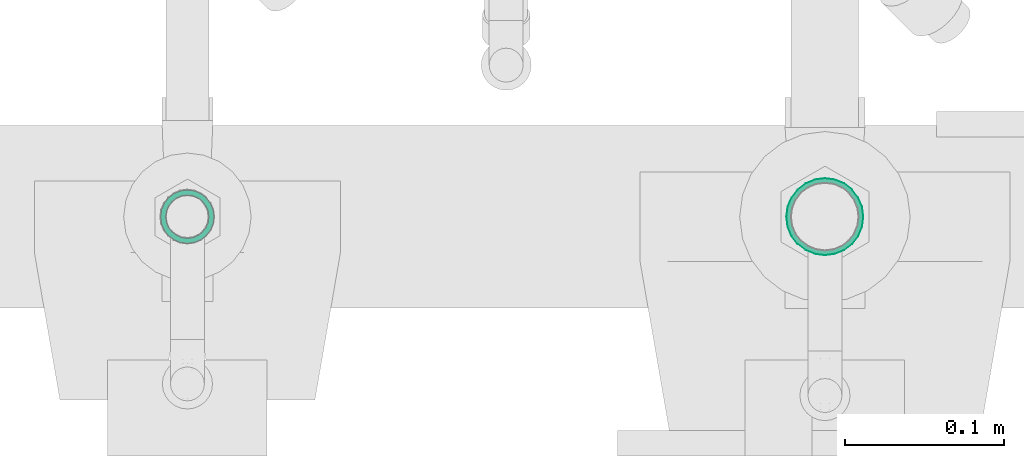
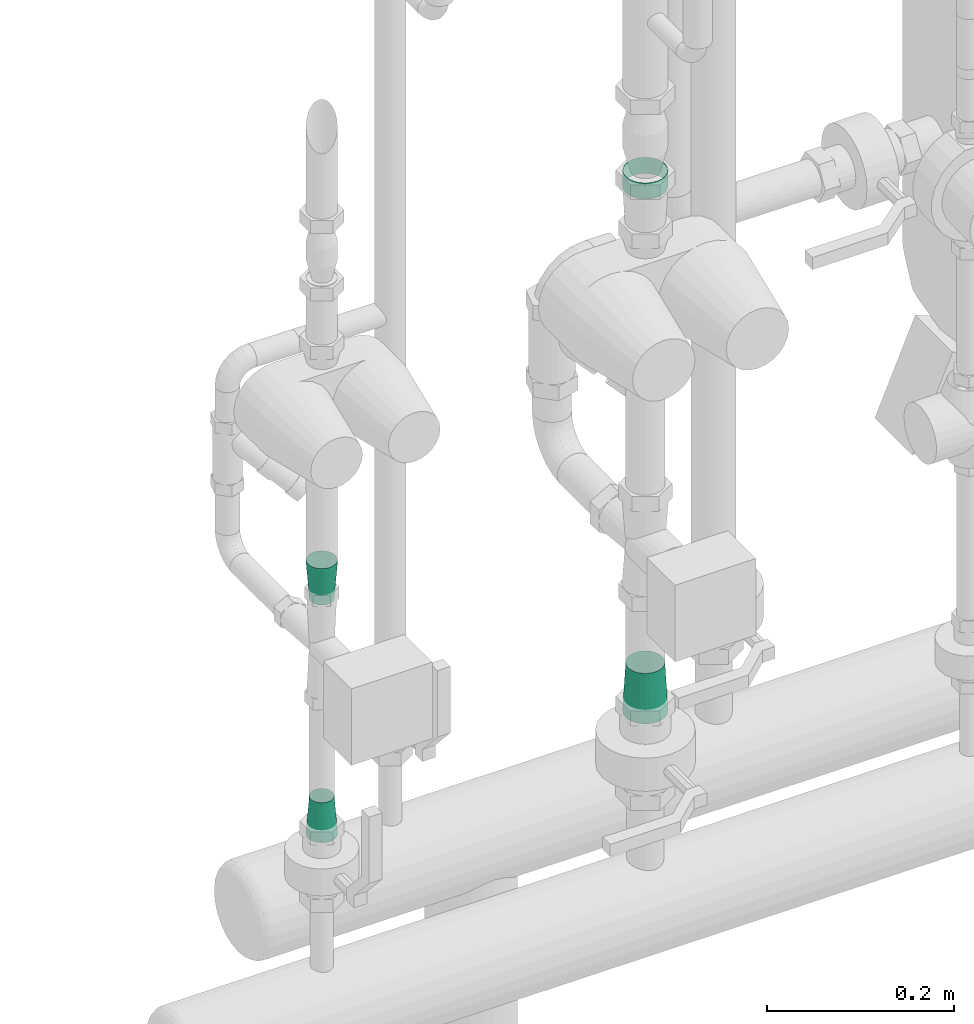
# One storey, part 340 of 374: 3 flow fittings, 1 flow segment.
"""IFC2X3 building model written with IfcOpenShell, lengths in metres."""

from ifc_helpers import new_model, si_unit, direction, origin, place, context, subcontext, project, spatial, open_shell, surface_model, source, transform, mapped, element, save


model = new_model("IFC2X3")

# Units and contexts
model_context = context("Model", 3, precision=1e-05, world=origin(), true_north=direction((-0.4480736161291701, 0.8939966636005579)))
body_context = subcontext(model_context, "Body", "Model", "MODEL_VIEW")
ifc_project = project(units=[si_unit("LENGTHUNIT", "METRE"), si_unit("AREAUNIT", "SQUARE_METRE"), si_unit("VOLUMEUNIT", "CUBIC_METRE"), si_unit("PLANEANGLEUNIT", "RADIAN"), si_unit("THERMODYNAMICTEMPERATUREUNIT", "KELVIN"), si_unit("MASSUNIT", "GRAM", prefix="KILO"), si_unit("TIMEUNIT", "SECOND")], contexts=[model_context])

# Site, building, storey
site_placement = place(None, origin())
site = spatial("IfcSite", under=ifc_project, at=site_placement, Name="Site 1", CompositionType="ELEMENT")
building_placement = place(site_placement, origin())
building = spatial("IfcBuilding", under=site, at=building_placement, Name="Undefined", CompositionType="ELEMENT")
storey_placement = place(building_placement, origin())
storey = spatial("IfcBuildingStorey", under=building, at=storey_placement, Name="Rez de chauss\x8ee", CompositionType="ELEMENT", Elevation=0.0)

# Flow fitting
shared_shape_1 = source(origin(), body_context, "Body", "SurfaceModel", [
    surface_model("IfcFaceBasedSurfaceModel", [(0.0, 0.0, 0.0), (0.006304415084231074, 0.0, -7.105427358e-15), (0.006304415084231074, 0.00491426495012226, -7.105427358e-15), (0.0, 0.00491426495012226, -7.105427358e-15), (0.01239401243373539, 0.0, -0.0016317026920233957), (0.01239401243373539, 0.00491426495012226, -0.0016317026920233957), (0.017853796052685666, 0.0, -0.004783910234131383), (0.017853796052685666, 0.00491426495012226, -0.004783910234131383), (0.0223116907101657, 0.0, -0.00924180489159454), (0.0223116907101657, 0.00491426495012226, -0.00924180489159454), (0.025463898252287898, 0.0, -0.014701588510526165), (0.025463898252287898, 0.00491426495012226, -0.014701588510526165), (0.02709560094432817, 0.0, -0.02079118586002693), (0.02709560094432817, 0.00491426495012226, -0.02079118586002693), (0.02709560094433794, 0.0, -0.027095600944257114), (0.02709560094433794, 0.00491426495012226, -0.027095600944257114), (0.025463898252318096, 0.0, -0.03318519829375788), (0.025463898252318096, 0.00491426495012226, -0.03318519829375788), (0.022311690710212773, 0.0, -0.03864498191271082), (0.022311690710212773, 0.00491426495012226, -0.03864498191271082), (0.01785379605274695, 0.0, -0.04310287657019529), (0.01785379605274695, 0.00491426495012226, -0.04310287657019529), (0.012394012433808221, 0.0, -0.046255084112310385), (0.012394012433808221, 0.00491426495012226, -0.046255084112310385), (0.0063044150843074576, 0.0, -0.0478867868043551), (0.0063044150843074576, 0.00491426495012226, -0.0478867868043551), (0.0, -2.4868995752e-14, -0.04788678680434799), (7.9047879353e-14, 0.00491426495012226, -0.0478867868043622), (-0.006089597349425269, 0.0, -0.04625508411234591), (-0.006089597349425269, 0.00491426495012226, -0.04625508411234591), (-0.011549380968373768, 0.0, -0.043102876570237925), (-0.011549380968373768, 0.00491426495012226, -0.043102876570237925), (-0.016007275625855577, 0.0, -0.03864498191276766), (-0.016007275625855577, 0.00491426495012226, -0.03864498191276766), (-0.019159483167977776, 0.0, -0.03318519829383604), (-0.019159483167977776, 0.00491426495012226, -0.03318519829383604), (-0.02079118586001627, 0.0, -0.027095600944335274), (-0.02079118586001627, 0.00491426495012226, -0.027095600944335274), (-0.020791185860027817, 0.0, -0.020791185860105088), (-0.020791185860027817, 0.00491426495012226, -0.020791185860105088), (-0.019159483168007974, 0.0, -0.014701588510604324), (-0.019159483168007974, 0.00491426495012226, -0.014701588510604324), (-0.016007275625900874, 0.0, -0.00924180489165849), (-0.016007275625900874, 0.00491426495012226, -0.00924180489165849), (-0.011549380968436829, 0.0, -0.004783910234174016), (-0.011549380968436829, 0.00491426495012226, -0.004783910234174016), (-0.006089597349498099, 0.0, -0.0016317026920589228), (-0.006089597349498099, 0.00491426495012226, -0.0016317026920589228), (-0.017866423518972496, 0.05939565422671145, -0.021176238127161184), (-0.017866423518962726, 0.05939565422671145, -0.026710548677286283), (-0.016434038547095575, 0.05939565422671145, -0.015830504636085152), (-0.013666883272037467, 0.05939565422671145, -0.011037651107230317), (-0.009753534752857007, 0.05939565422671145, -0.007124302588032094), (-0.004960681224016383, 0.05939565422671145, -0.004357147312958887), (0.0003850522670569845, 0.05939565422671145, -0.0029247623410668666), (0.005919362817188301, 0.05939565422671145, -0.002924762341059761), (0.01126509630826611, 0.05939565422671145, -0.004357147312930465), (0.01605794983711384, 0.05939565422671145, -0.007124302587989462), (0.019971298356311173, 0.05939565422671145, -0.01103765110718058), (0.022738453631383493, 0.05939565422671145, -0.015830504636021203), (0.024170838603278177, 0.05939565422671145, -0.02117623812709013), (0.02417083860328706, 0.05939565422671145, -0.026710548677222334), (0.022738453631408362, 0.05939565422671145, -0.032056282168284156), (0.01997129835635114, 0.05939565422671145, -0.03684913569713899), (0.01605794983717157, 0.05939565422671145, -0.040762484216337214), (0.01126509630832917, 0.05939565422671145, -0.04352963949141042), (0.005919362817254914, 0.05939565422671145, -0.04496202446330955), (0.00038505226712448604, 0.05939565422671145, -0.04496202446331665), (-0.004960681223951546, 0.05939565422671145, -0.04352963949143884), (-0.009753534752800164, 0.05939565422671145, -0.040762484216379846), (-0.013666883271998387, 0.05939565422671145, -0.03684913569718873), (-0.01643403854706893, 0.05939565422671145, -0.032056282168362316), (0.005919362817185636, 0.06400000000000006, -0.0029247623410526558), (0.0003850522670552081, 0.06400000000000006, -0.0029247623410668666), (0.011265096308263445, 0.06400000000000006, -0.0043571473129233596), (0.016057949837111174, 0.06400000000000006, -0.007124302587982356), (0.01997129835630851, 0.06400000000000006, -0.011037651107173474), (0.022738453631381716, 0.06400000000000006, -0.015830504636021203), (0.02417083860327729, 0.06400000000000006, -0.021176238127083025), (0.024170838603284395, 0.06400000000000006, -0.02671054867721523), (0.022738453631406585, 0.06400000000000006, -0.032056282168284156), (0.019971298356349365, 0.06400000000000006, -0.03684913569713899), (0.016057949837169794, 0.06400000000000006, -0.040762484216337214), (0.011265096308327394, 0.06400000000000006, -0.04352963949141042), (0.0059193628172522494, 0.06400000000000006, -0.04496202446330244), (0.00038505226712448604, 0.06400000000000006, -0.04496202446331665), (-0.004960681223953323, 0.06400000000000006, -0.04352963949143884), (-0.00975353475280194, 0.06400000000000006, -0.040762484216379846), (-0.013666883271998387, 0.06400000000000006, -0.03684913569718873), (-0.016434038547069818, 0.06400000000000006, -0.03205628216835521), (-0.01786642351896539, 0.06400000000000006, -0.026710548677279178), (-0.017866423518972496, 0.06400000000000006, -0.021176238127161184), (-0.016434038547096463, 0.06400000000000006, -0.015830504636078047), (-0.013666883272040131, 0.06400000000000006, -0.011037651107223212), (-0.009753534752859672, 0.06400000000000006, -0.007124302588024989), (-0.0049606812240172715, 0.06400000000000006, -0.004357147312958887)], [open_shell([[[0, 1, 2, 3]], [[1, 4, 5, 2]], [[4, 6, 7, 5]], [[6, 8, 9, 7]], [[8, 10, 11, 9]], [[10, 12, 13, 11]], [[12, 14, 15, 13]], [[14, 16, 17, 15]], [[16, 18, 19, 17]], [[18, 20, 21, 19]], [[20, 22, 23, 21]], [[22, 24, 25, 23]], [[24, 26, 27, 25]], [[26, 28, 29, 27]], [[28, 30, 31, 29]], [[30, 32, 33, 31]], [[32, 34, 35, 33]], [[34, 36, 37, 35]], [[36, 38, 39, 37]], [[38, 40, 41, 39]], [[40, 42, 43, 41]], [[42, 44, 45, 43]], [[44, 46, 47, 45]], [[46, 0, 3, 47]], [[37, 39, 48, 49]], [[39, 41, 50, 48]], [[41, 43, 51, 50]], [[43, 45, 52, 51]], [[45, 47, 53, 52]], [[47, 3, 54, 53]], [[3, 2, 55, 54]], [[2, 5, 56, 55]], [[5, 7, 57, 56]], [[7, 9, 58, 57]], [[9, 11, 59, 58]], [[11, 13, 60, 59]], [[13, 15, 61, 60]], [[15, 17, 62, 61]], [[17, 19, 63, 62]], [[19, 21, 64, 63]], [[21, 23, 65, 64]], [[23, 25, 66, 65]], [[25, 27, 67, 66]], [[27, 29, 68, 67]], [[29, 31, 69, 68]], [[31, 33, 70, 69]], [[33, 35, 71, 70]], [[35, 37, 49, 71]], [[54, 55, 72, 73]], [[55, 56, 74, 72]], [[56, 57, 75, 74]], [[57, 58, 76, 75]], [[58, 59, 77, 76]], [[59, 60, 78, 77]], [[60, 61, 79, 78]], [[61, 62, 80, 79]], [[62, 63, 81, 80]], [[63, 64, 82, 81]], [[64, 65, 83, 82]], [[65, 66, 84, 83]], [[66, 67, 85, 84]], [[67, 68, 86, 85]], [[68, 69, 87, 86]], [[69, 70, 88, 87]], [[70, 71, 89, 88]], [[71, 49, 90, 89]], [[49, 48, 91, 90]], [[48, 50, 92, 91]], [[50, 51, 93, 92]], [[51, 52, 94, 93]], [[52, 53, 95, 94]], [[53, 54, 73, 95]]])]),
])
flow_fitting_1_placement = place(storey_placement, origin())
element("IfcFlowFitting", 1, at=flow_fitting_1_placement, inside=storey, Name="Réduction", ObjectType="Réduction", context=body_context, shape_type="MappedRepresentation", body=[
    mapped(shared_shape_1, transform((52.4334120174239, 10.718037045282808, 0.54895), x_axis=(0.13052619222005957, -0.9914448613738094, 0.0), y_axis=(0.0, 0.0, 1.0), z_axis=(-0.9914448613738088, -0.13052619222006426, 0.0))),
])

# Flow segment
shared_shape_2 = source(origin(), body_context, "Body", "SurfaceModel", [
    surface_model("IfcFaceBasedSurfaceModel", [(0.0, 0.006304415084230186, 7.105427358e-15), (0.0, 0.0, 0.0), (0.021247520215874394, 8.8817842e-16, 7.105427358e-15), (0.021247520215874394, 0.006304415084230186, 7.105427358e-15), (0.0, -0.006089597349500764, -0.0016317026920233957), (0.021247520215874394, -0.006089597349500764, -0.0016317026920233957), (0.0, -0.011549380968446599, -0.004783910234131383), (0.021247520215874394, -0.011549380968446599, -0.004783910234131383), (0.0, -0.016007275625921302, -0.009241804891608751), (0.021247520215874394, -0.016007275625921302, -0.009241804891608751), (0.0, -0.01915948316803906, -0.014701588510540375), (0.021247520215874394, -0.01915948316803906, -0.014701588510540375), (0.0, -0.020791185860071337, -0.020791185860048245), (0.021247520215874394, -0.020791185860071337, -0.020791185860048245), (0.0, -0.020791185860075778, -0.027095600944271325), (0.021247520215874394, -0.020791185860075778, -0.027095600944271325), (0.0, -0.01915948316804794, -0.03318519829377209), (0.021247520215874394, -0.01915948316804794, -0.03318519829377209), (0.0, -0.01600727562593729, -0.038644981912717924), (0.021247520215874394, -0.01600727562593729, -0.038644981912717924), (0.0, -0.011549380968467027, -0.0431028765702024), (0.021247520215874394, -0.011549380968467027, -0.0431028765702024), (0.0, -0.006089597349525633, -0.04625508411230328), (0.021247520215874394, -0.006089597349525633, -0.04625508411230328), (0.0, -2.4868995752e-14, -0.04788678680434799), (0.021247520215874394, -2.4868995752e-14, -0.04788678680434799), (0.0, 0.006304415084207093, -0.047886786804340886), (0.021247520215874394, 0.006304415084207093, -0.047886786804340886), (0.0, 0.012394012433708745, -0.046255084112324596), (0.021247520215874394, 0.012394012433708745, -0.046255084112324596), (0.0, 0.01785379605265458, -0.0431028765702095), (0.021247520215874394, 0.01785379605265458, -0.0431028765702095), (0.0, 0.022311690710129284, -0.03864498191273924), (0.021247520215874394, 0.022311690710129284, -0.03864498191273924), (0.0, 0.02546389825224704, -0.03318519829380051), (0.021247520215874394, 0.02546389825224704, -0.03318519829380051), (0.0, 0.02709560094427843, -0.027095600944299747), (0.021247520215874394, 0.02709560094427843, -0.027095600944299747), (0.0, 0.02709560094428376, -0.02079118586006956), (0.021247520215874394, 0.02709560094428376, -0.02079118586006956), (0.0, 0.025463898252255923, -0.014701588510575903), (0.021247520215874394, 0.025463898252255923, -0.014701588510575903), (0.0, 0.02231169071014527, -0.009241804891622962), (0.021247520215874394, 0.02231169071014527, -0.009241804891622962), (0.0, 0.01785379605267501, -0.004783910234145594), (0.021247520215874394, 0.01785379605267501, -0.004783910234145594), (0.0, 0.012394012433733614, -0.0016317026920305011), (0.021247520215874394, 0.012394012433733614, -0.0016317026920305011)], [open_shell([[[0, 1, 2, 3]], [[1, 4, 5, 2]], [[4, 6, 7, 5]], [[6, 8, 9, 7]], [[8, 10, 11, 9]], [[10, 12, 13, 11]], [[12, 14, 15, 13]], [[14, 16, 17, 15]], [[16, 18, 19, 17]], [[18, 20, 21, 19]], [[20, 22, 23, 21]], [[22, 24, 25, 23]], [[24, 26, 27, 25]], [[26, 28, 29, 27]], [[28, 30, 31, 29]], [[30, 32, 33, 31]], [[32, 34, 35, 33]], [[34, 36, 37, 35]], [[36, 38, 39, 37]], [[38, 40, 41, 39]], [[40, 42, 43, 41]], [[42, 44, 45, 43]], [[44, 46, 47, 45]], [[46, 0, 3, 47]]])]),
])
flow_segment_placement = place(storey_placement, origin())
element("IfcFlowSegment", 2, at=flow_segment_placement, inside=storey, Name="Tube acier d'après DIN 2448", ObjectType="Tube acier d'après DIN 2448", context=body_context, shape_type="MappedRepresentation", body=[
    mapped(shared_shape_2, transform((52.48088912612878, 10.724287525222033, 1.2349), x_axis=(0.0, 0.0, 1.0), y_axis=(0.13052619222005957, -0.9914448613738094, 0.0), z_axis=(0.9914448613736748, 0.13052619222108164, 0.0))),
])

# Flow fittings
shared_shape_3 = source(origin(), body_context, "Body", "SurfaceModel", [
    surface_model("IfcFaceBasedSurfaceModel", [(0.0, 0.0, 0.0), (0.004398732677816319, 0.0, -7.105427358e-15), (0.004398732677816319, 0.0041048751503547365, -7.105427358e-15), (0.0, 0.0041048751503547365, -7.105427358e-15), (0.008647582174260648, 0.0, -0.001138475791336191), (0.008647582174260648, 0.0041048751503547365, -0.001138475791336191), (0.012456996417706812, 0.0, -0.003337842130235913), (0.012456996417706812, 0.0041048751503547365, -0.003337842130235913), (0.015567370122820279, 0.0, -0.0064482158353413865), (0.015567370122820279, 0.0041048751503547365, -0.0064482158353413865), (0.01776673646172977, 0.0, -0.010257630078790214), (0.01776673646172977, 0.0041048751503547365, -0.010257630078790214), (0.018905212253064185, 0.0, -0.014506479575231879), (0.018905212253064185, 0.0041048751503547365, -0.014506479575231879), (0.01890521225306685, 0.0, -0.018905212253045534), (0.01890521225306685, 0.0041048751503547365, -0.018905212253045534), (0.017766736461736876, 0.0, -0.023154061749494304), (0.017766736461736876, 0.0041048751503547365, -0.023154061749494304), (0.015567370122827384, 0.0, -0.026963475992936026), (0.015567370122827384, 0.0041048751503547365, -0.026963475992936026), (0.012456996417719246, 0.0, -0.03007384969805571), (0.012456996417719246, 0.0041048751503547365, -0.03007384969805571), (0.008647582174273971, 0.0, -0.03227321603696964), (0.008647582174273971, 0.0041048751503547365, -0.03227321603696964), (0.00439873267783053, 0.0, -0.03341169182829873), (0.00439873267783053, 0.0041048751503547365, -0.03341169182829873), (0.0, -1.5099033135e-14, -0.03341169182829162), (1.5099033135e-14, 0.0041048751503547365, -0.033411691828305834), (-0.004248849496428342, 0.0, -0.03227321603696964), (-0.004248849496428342, 0.0041048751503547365, -0.03227321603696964), (-0.008058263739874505, 0.0, -0.03007384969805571), (-0.008058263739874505, 0.0041048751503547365, -0.03007384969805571), (-0.011168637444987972, 0.0, -0.026963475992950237), (-0.011168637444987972, 0.0041048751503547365, -0.026963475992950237), (-0.013368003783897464, 0.0, -0.02315406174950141), (-0.013368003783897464, 0.0041048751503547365, -0.02315406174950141), (-0.014506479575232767, 0.0, -0.01890521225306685), (-0.014506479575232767, 0.0041048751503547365, -0.01890521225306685), (-0.014506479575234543, 0.0, -0.01450647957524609), (-0.014506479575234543, 0.0041048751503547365, -0.01450647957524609), (-0.01336800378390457, 0.0, -0.01025763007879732), (-0.01336800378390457, 0.0041048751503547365, -0.01025763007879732), (-0.011168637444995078, 0.0, -0.006448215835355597), (-0.011168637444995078, 0.0041048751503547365, -0.006448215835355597), (-0.00805826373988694, 0.0, -0.0033378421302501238), (-0.00805826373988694, 0.0041048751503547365, -0.0033378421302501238), (-0.004248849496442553, 0.0, -0.0011384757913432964), (-0.004248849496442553, 0.0041048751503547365, -0.0011384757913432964), (-0.011135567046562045, 0.04671975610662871, -0.01495026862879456), (-0.011135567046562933, 0.04671975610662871, -0.01846142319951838), (-0.010226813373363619, 0.04671975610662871, -0.011558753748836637), (-0.008471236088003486, 0.04671975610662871, -0.008518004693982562), (-0.005988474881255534, 0.04671975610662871, -0.006035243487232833), (-0.002947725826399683, 0.04671975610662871, -0.004279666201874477), (0.0004437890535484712, 0.04671975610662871, -0.003370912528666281), (0.0039549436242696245, 0.04671975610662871, -0.003370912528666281), (0.007346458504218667, 0.04671975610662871, -0.0042796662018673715), (0.010387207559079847, 0.04671975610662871, -0.006035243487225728), (0.012869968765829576, 0.04671975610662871, -0.00851800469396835), (0.014625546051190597, 0.04671975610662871, -0.011558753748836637), (0.015534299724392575, 0.04671975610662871, -0.014950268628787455), (0.015534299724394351, 0.04671975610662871, -0.018461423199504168), (0.014625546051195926, 0.04671975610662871, -0.021852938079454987), (0.01286996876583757, 0.04671975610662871, -0.02489368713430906), (0.010387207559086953, 0.04671975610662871, -0.027376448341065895), (0.0073464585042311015, 0.04671975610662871, -0.029132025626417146), (0.003954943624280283, 0.04671975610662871, -0.030040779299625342), (0.00044378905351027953, 0.04671975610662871, -0.030040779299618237), (-0.0029477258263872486, 0.04671975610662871, -0.029132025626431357), (-0.0059884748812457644, 0.04671975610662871, -0.027376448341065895), (-0.00847123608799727, 0.04671975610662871, -0.024893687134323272), (-0.01022681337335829, 0.04671975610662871, -0.021852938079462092), (0.0039549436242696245, 0.050000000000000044, -0.003370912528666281), (0.0004437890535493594, 0.050000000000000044, -0.0033709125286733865), (0.0073464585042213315, 0.050000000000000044, -0.004279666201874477), (0.010387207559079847, 0.050000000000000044, -0.006035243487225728), (0.012869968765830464, 0.050000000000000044, -0.008518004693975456), (0.014625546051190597, 0.050000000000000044, -0.011558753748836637), (0.015534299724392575, 0.050000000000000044, -0.014950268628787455), (0.01553429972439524, 0.050000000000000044, -0.018461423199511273), (0.014625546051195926, 0.050000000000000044, -0.021852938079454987), (0.012869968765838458, 0.050000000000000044, -0.024893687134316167), (0.01038720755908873, 0.050000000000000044, -0.027376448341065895), (0.0073464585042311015, 0.050000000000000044, -0.029132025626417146), (0.003954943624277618, 0.050000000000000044, -0.030040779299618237), (0.0004437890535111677, 0.050000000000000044, -0.030040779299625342), (-0.002947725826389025, 0.050000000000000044, -0.029132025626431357), (-0.005988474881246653, 0.050000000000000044, -0.027376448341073), (-0.00847123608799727, 0.050000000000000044, -0.024893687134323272), (-0.010226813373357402, 0.050000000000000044, -0.021852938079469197), (-0.011135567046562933, 0.050000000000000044, -0.01846142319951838), (-0.011135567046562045, 0.050000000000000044, -0.01495026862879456), (-0.010226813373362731, 0.050000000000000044, -0.011558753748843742), (-0.008471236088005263, 0.050000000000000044, -0.008518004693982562), (-0.005988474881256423, 0.050000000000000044, -0.0060352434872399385), (-0.002947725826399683, 0.050000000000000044, -0.004279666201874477)], [open_shell([[[0, 1, 2, 3]], [[1, 4, 5, 2]], [[4, 6, 7, 5]], [[6, 8, 9, 7]], [[8, 10, 11, 9]], [[10, 12, 13, 11]], [[12, 14, 15, 13]], [[14, 16, 17, 15]], [[16, 18, 19, 17]], [[18, 20, 21, 19]], [[20, 22, 23, 21]], [[22, 24, 25, 23]], [[24, 26, 27, 25]], [[26, 28, 29, 27]], [[28, 30, 31, 29]], [[30, 32, 33, 31]], [[32, 34, 35, 33]], [[34, 36, 37, 35]], [[36, 38, 39, 37]], [[38, 40, 41, 39]], [[40, 42, 43, 41]], [[42, 44, 45, 43]], [[44, 46, 47, 45]], [[46, 0, 3, 47]], [[37, 39, 48, 49]], [[39, 41, 50, 48]], [[41, 43, 51, 50]], [[43, 45, 52, 51]], [[45, 47, 53, 52]], [[47, 3, 54, 53]], [[3, 2, 55, 54]], [[2, 5, 56, 55]], [[5, 7, 57, 56]], [[7, 9, 58, 57]], [[9, 11, 59, 58]], [[11, 13, 60, 59]], [[13, 15, 61, 60]], [[15, 17, 62, 61]], [[17, 19, 63, 62]], [[19, 21, 64, 63]], [[21, 23, 65, 64]], [[23, 25, 66, 65]], [[25, 27, 67, 66]], [[27, 29, 68, 67]], [[29, 31, 69, 68]], [[31, 33, 70, 69]], [[33, 35, 71, 70]], [[35, 37, 49, 71]], [[54, 55, 72, 73]], [[55, 56, 74, 72]], [[56, 57, 75, 74]], [[57, 58, 76, 75]], [[58, 59, 77, 76]], [[59, 60, 78, 77]], [[60, 61, 79, 78]], [[61, 62, 80, 79]], [[62, 63, 81, 80]], [[63, 64, 82, 81]], [[64, 65, 83, 82]], [[65, 66, 84, 83]], [[66, 67, 85, 84]], [[67, 68, 86, 85]], [[68, 69, 87, 86]], [[69, 70, 88, 87]], [[70, 71, 89, 88]], [[71, 49, 90, 89]], [[49, 48, 91, 90]], [[48, 50, 92, 91]], [[50, 51, 93, 92]], [[51, 52, 94, 93]], [[52, 53, 95, 94]], [[53, 54, 73, 95]]])]),
])
flow_fitting_2_placement = place(storey_placement, origin())
element("IfcFlowFitting", 3, at=flow_fitting_2_placement, inside=storey, Name="Réduction", ObjectType="Réduction", context=body_context, shape_type="MappedRepresentation", body=[
    mapped(shared_shape_3, transform((52.04071201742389, 10.718037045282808, 0.5285500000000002), x_axis=(0.13052619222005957, -0.9914448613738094, 0.0), y_axis=(0.0, 0.0, 1.0), z_axis=(-0.9914448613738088, -0.13052619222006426, 0.0))),
])
shared_shape_4 = source(origin(), body_context, "Body", "SurfaceModel", [
    surface_model("IfcFaceBasedSurfaceModel", [(0.0, 0.0, 0.0), (0.0035111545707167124, 0.0, 0.0), (0.0035111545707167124, 0.0032802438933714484, 0.0), (-1.776356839e-15, 0.0032802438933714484, 7.105427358e-15), (0.006902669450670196, 0.0, -0.0009087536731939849), (0.006902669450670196, 0.0032802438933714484, -0.0009087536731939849), (0.009943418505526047, 0.0, -0.002664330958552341), (0.009943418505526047, 0.0032802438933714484, -0.002664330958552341), (0.01242617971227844, 0.0, -0.00514709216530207), (0.01242617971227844, 0.0032802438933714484, -0.00514709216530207), (0.014181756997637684, 0.0, -0.00818784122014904), (0.014181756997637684, 0.0032802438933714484, -0.00818784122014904), (0.01509051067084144, 0.0, -0.011579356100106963), (0.01509051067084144, 0.0032802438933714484, -0.011579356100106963), (0.015090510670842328, 0.0, -0.015090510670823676), (0.015090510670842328, 0.0032802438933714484, -0.015090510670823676), (0.014181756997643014, 0.0, -0.018482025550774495), (0.014181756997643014, 0.0032802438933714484, -0.018482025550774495), (0.01242617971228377, 0.0, -0.021522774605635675), (0.01242617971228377, 0.0032802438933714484, -0.021522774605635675), (0.009943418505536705, 0.0, -0.024005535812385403), (0.009943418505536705, 0.0032802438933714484, -0.024005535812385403), (0.006902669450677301, 0.0, -0.02576111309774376), (0.006902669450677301, 0.0032802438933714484, -0.02576111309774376), (0.0035111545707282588, 0.0, -0.02666986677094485), (0.0035111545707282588, 0.0032802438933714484, -0.02666986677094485), (0.0, 4.2632564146e-14, -0.026669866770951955), (9.769962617e-15, 0.0032802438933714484, -0.02666986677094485), (-0.003391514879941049, 0.0, -0.025761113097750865), (-0.003391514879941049, 0.0032802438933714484, -0.025761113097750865), (-0.006432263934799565, 0.0, -0.02400553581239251), (-0.006432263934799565, 0.0032802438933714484, -0.02400553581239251), (-0.008915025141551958, 0.0, -0.02152277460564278), (-0.008915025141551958, 0.0032802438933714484, -0.02152277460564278), (-0.010670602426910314, 0.0, -0.018482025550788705), (-0.010670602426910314, 0.0032802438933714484, -0.018482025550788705), (-0.011579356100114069, 0.0, -0.015090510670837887), (-0.011579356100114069, 0.0032802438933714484, -0.015090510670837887), (-0.011579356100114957, 0.0, -0.011579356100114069), (-0.011579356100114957, 0.0032802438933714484, -0.011579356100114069), (-0.010670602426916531, 0.0, -0.008187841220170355), (-0.010670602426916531, 0.0032802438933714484, -0.008187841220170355), (-0.008915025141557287, 0.0, -0.005147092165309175), (-0.008915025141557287, 0.0032802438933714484, -0.005147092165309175), (-0.006432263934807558, 0.0, -0.0026643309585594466), (-0.006432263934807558, 0.0032802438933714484, -0.0026643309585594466), (-0.003391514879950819, 0.0, -0.0009087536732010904), (-0.003391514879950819, 0.0032802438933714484, -0.0009087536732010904), (-0.014950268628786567, 0.045895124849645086, -0.011135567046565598), (-0.01495026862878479, 0.045895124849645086, -0.015534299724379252), (-0.013811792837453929, 0.045895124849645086, -0.006886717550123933), (-0.011612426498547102, 0.045895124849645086, -0.0030773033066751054), (-0.008502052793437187, 0.0458951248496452, 3.3070398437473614e-05), (-0.0046926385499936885, 0.045895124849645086, 0.0022324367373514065), (-0.00044378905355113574, 0.045895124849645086, 0.0033709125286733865), (0.003954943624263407, 0.045895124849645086, 0.0033709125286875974), (0.008203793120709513, 0.045895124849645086, 0.002232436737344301), (0.012013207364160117, 0.0458951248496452, 3.307039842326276e-05), (0.015123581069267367, 0.045895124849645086, -0.003077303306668), (0.017322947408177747, 0.045895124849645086, -0.006886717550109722), (0.018461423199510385, 0.045895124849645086, -0.011135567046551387), (0.018461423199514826, 0.045895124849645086, -0.015534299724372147), (0.017322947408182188, 0.045895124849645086, -0.01978314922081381), (0.015123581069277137, 0.045895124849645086, -0.02359256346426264), (0.012013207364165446, 0.045895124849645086, -0.026702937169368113), (0.00820379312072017, 0.045895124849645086, -0.02890230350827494), (0.00395494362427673, 0.045895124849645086, -0.03004077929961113), (-0.00044378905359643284, 0.0458951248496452, -0.030040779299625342), (-0.004692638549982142, 0.045895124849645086, -0.028902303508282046), (-0.008502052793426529, 0.045895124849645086, -0.026702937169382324), (-0.011612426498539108, 0.045895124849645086, -0.023592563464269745), (-0.013811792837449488, 0.045895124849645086, -0.019783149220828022), (0.0039549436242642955, 0.050000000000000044, 0.003370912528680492), (-0.00044378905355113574, 0.050000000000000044, 0.0033709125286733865), (0.008203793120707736, 0.050000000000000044, 0.002232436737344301), (0.012013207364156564, 0.04999999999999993, 3.307039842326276e-05), (0.015123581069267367, 0.050000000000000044, -0.003077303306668), (0.017322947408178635, 0.050000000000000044, -0.006886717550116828), (0.018461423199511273, 0.050000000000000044, -0.011135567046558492), (0.018461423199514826, 0.050000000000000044, -0.015534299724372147), (0.017322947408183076, 0.050000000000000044, -0.019783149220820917), (0.015123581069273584, 0.050000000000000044, -0.02359256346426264), (0.012013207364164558, 0.050000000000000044, -0.026702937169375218), (0.008203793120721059, 0.050000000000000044, -0.028902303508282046), (0.003954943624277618, 0.050000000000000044, -0.030040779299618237), (-0.000443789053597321, 0.04999999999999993, -0.030040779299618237), (-0.004692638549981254, 0.050000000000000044, -0.02890230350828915), (-0.008502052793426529, 0.050000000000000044, -0.026702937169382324), (-0.01161242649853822, 0.050000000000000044, -0.02359256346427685), (-0.013811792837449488, 0.050000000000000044, -0.019783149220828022), (-0.014950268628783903, 0.050000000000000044, -0.015534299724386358), (-0.014950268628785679, 0.050000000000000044, -0.011135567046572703), (-0.013811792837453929, 0.050000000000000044, -0.006886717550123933), (-0.011612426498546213, 0.050000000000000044, -0.003077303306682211), (-0.008502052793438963, 0.0458951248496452, 3.307039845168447e-05), (-0.008502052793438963, 0.04999999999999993, 3.307039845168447e-05), (-0.0046926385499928, 0.050000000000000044, 0.002232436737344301)], [open_shell([[[0, 1, 2, 3]], [[1, 4, 5, 2]], [[4, 6, 7, 5]], [[6, 8, 9, 7]], [[8, 10, 11, 9]], [[10, 12, 13, 11]], [[12, 14, 15, 13]], [[14, 16, 17, 15]], [[16, 18, 19, 17]], [[18, 20, 21, 19]], [[20, 22, 23, 21]], [[22, 24, 25, 23]], [[24, 26, 27, 25]], [[26, 28, 29, 27]], [[28, 30, 31, 29]], [[30, 32, 33, 31]], [[32, 34, 35, 33]], [[34, 36, 37, 35]], [[36, 38, 39, 37]], [[38, 40, 41, 39]], [[40, 42, 43, 41]], [[42, 44, 45, 43]], [[44, 46, 47, 45]], [[46, 0, 3, 47]], [[37, 39, 48, 49]], [[39, 41, 50, 48]], [[41, 43, 51, 50]], [[43, 45, 52, 51]], [[45, 47, 53, 52]], [[47, 3, 54, 53]], [[3, 2, 55, 54]], [[2, 5, 56, 55]], [[5, 7, 57, 56]], [[7, 9, 58, 57]], [[9, 11, 59, 58]], [[11, 13, 60, 59]], [[13, 15, 61, 60]], [[15, 17, 62, 61]], [[17, 19, 63, 62]], [[19, 21, 64, 63]], [[21, 23, 65, 64]], [[23, 25, 66, 65]], [[25, 27, 67, 66]], [[27, 29, 68, 67]], [[29, 31, 69, 68]], [[31, 33, 70, 69]], [[33, 35, 71, 70]], [[35, 37, 49, 71]], [[54, 55, 72, 73]], [[55, 56, 74, 72]], [[56, 57, 75, 74]], [[57, 58, 76, 75]], [[58, 59, 77, 76]], [[59, 60, 78, 77]], [[60, 61, 79, 78]], [[61, 62, 80, 79]], [[62, 63, 81, 80]], [[63, 64, 82, 81]], [[64, 65, 83, 82]], [[65, 66, 84, 83]], [[66, 67, 85, 84]], [[67, 68, 86, 85]], [[68, 69, 87, 86]], [[69, 70, 88, 87]], [[70, 71, 89, 88]], [[71, 49, 90, 89]], [[49, 48, 91, 90]], [[48, 50, 92, 91]], [[50, 51, 93, 92]], [[51, 94, 95, 93]], [[94, 53, 96, 95]], [[53, 54, 73, 96]]])]),
])
flow_fitting_3_placement = place(storey_placement, origin())
element("IfcFlowFitting", 4, at=flow_fitting_3_placement, inside=storey, Name="Réduction", ObjectType="Réduction", context=body_context, shape_type="MappedRepresentation", body=[
    mapped(shared_shape_4, transform((52.07101201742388, 10.718037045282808, 0.836851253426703), x_axis=(-0.13052619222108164, 0.9914448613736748, 0.0), y_axis=(0.0, 0.0, 1.0), z_axis=(0.9914448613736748, 0.13052619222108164, 0.0))),
])

save(model, "model.ifc")
